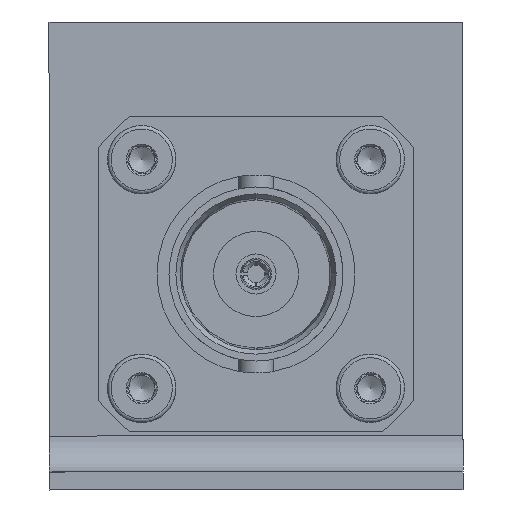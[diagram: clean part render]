
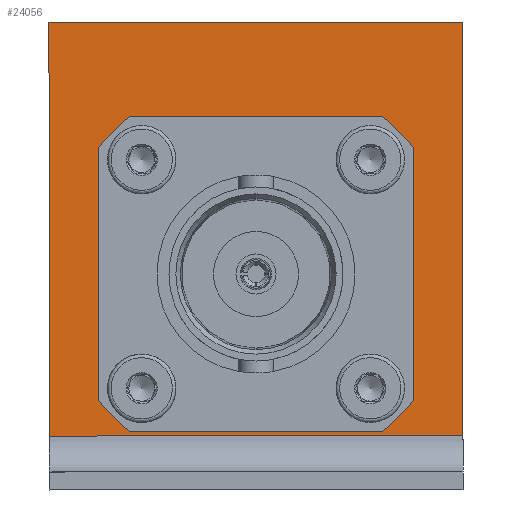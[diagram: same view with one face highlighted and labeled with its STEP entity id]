
A CAD part, left-side view. The second image highlights one B-rep face of the part: STEP entity #24056.
In plain terms, the highlighted planar face has unit normal (-1, 0, 0).
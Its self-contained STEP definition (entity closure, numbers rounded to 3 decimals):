
#1353=LINE('',#33131,#2765);
#1378=LINE('',#33198,#2790);
#1385=LINE('',#33215,#2797);
#1386=LINE('',#33219,#2798);
#1387=LINE('',#33223,#2799);
#1388=LINE('',#33227,#2800);
#1389=LINE('',#33228,#2801);
#1390=LINE('',#33229,#2802);
#2765=VECTOR('',#28057,1000.);
#2790=VECTOR('',#28102,1000.);
#2797=VECTOR('',#28113,1000.);
#2798=VECTOR('',#28116,1000.);
#2799=VECTOR('',#28119,1000.);
#2800=VECTOR('',#28122,1000.);
#2801=VECTOR('',#28123,1000.);
#2802=VECTOR('',#28124,1000.);
#3640=PLANE('',#25188);
#5739=ORIENTED_EDGE('',*,*,#9415,.T.);
#5740=ORIENTED_EDGE('',*,*,#9416,.F.);
#5741=ORIENTED_EDGE('',*,*,#9417,.T.);
#5742=ORIENTED_EDGE('',*,*,#9418,.F.);
#5743=ORIENTED_EDGE('',*,*,#9419,.T.);
#5744=ORIENTED_EDGE('',*,*,#9420,.F.);
#5745=ORIENTED_EDGE('',*,*,#9421,.T.);
#5746=ORIENTED_EDGE('',*,*,#9422,.F.);
#5747=ORIENTED_EDGE('',*,*,#9408,.T.);
#5748=ORIENTED_EDGE('',*,*,#9423,.T.);
#5749=ORIENTED_EDGE('',*,*,#9375,.F.);
#5750=ORIENTED_EDGE('',*,*,#9424,.T.);
#9375=EDGE_CURVE('',#11359,#11360,#1353,.T.);
#9408=EDGE_CURVE('',#11391,#11390,#1378,.T.);
#9415=EDGE_CURVE('',#11397,#11398,#12461,.T.);
#9416=EDGE_CURVE('',#11399,#11398,#1385,.T.);
#9417=EDGE_CURVE('',#11399,#11400,#12462,.T.);
#9418=EDGE_CURVE('',#11401,#11400,#1386,.T.);
#9419=EDGE_CURVE('',#11401,#11402,#12463,.T.);
#9420=EDGE_CURVE('',#11403,#11402,#1387,.T.);
#9421=EDGE_CURVE('',#11403,#11404,#12464,.T.);
#9422=EDGE_CURVE('',#11397,#11404,#1388,.T.);
#9423=EDGE_CURVE('',#11390,#11360,#1389,.T.);
#9424=EDGE_CURVE('',#11359,#11391,#1390,.T.);
#11359=VERTEX_POINT('',#33132);
#11360=VERTEX_POINT('',#33133);
#11390=VERTEX_POINT('',#33197);
#11391=VERTEX_POINT('',#33199);
#11397=VERTEX_POINT('',#33213);
#11398=VERTEX_POINT('',#33214);
#11399=VERTEX_POINT('',#33216);
#11400=VERTEX_POINT('',#33218);
#11401=VERTEX_POINT('',#33220);
#11402=VERTEX_POINT('',#33222);
#11403=VERTEX_POINT('',#33224);
#11404=VERTEX_POINT('',#33226);
#12461=CIRCLE('',#25189,11.225);
#12462=CIRCLE('',#25190,11.225);
#12463=CIRCLE('',#25191,11.225);
#12464=CIRCLE('',#25192,11.225);
#13401=EDGE_LOOP('',(#5739,#5740,#5741,#5742,#5743,#5744,#5745,#5746));
#13402=EDGE_LOOP('',(#5747,#5748,#5749,#5750));
#14889=FACE_BOUND('',#13401,.T.);
#14890=FACE_BOUND('',#13402,.T.);
#24056=ADVANCED_FACE('',(#14889,#14890),#3640,.T.);
#25188=AXIS2_PLACEMENT_3D('',#33211,#28109,#28110);
#25189=AXIS2_PLACEMENT_3D('',#33212,#28111,#28112);
#25190=AXIS2_PLACEMENT_3D('',#33217,#28114,#28115);
#25191=AXIS2_PLACEMENT_3D('',#33221,#28117,#28118);
#25192=AXIS2_PLACEMENT_3D('',#33225,#28120,#28121);
#28057=DIRECTION('',(0.,0.,-1.));
#28102=DIRECTION('',(0.,0.,-1.));
#28109=DIRECTION('',(-1.,0.,0.));
#28110=DIRECTION('',(0.,0.,1.));
#28111=DIRECTION('',(1.,0.,0.));
#28112=DIRECTION('',(0.,0.,-1.));
#28113=DIRECTION('',(0.,1.,0.));
#28114=DIRECTION('',(1.,0.,0.));
#28115=DIRECTION('',(0.,0.,-1.));
#28116=DIRECTION('',(0.,0.,1.));
#28117=DIRECTION('',(1.,0.,0.));
#28118=DIRECTION('',(0.,0.,-1.));
#28119=DIRECTION('',(0.,-1.,0.));
#28120=DIRECTION('',(1.,0.,0.));
#28121=DIRECTION('',(0.,0.,-1.));
#28122=DIRECTION('',(0.,0.,-1.));
#28123=DIRECTION('',(0.,-1.,0.));
#28124=DIRECTION('',(0.,1.,0.));
#33131=CARTESIAN_POINT('',(-52.35,-11.5,30.551));
#33132=CARTESIAN_POINT('',(-52.35,-11.5,30.551));
#33133=CARTESIAN_POINT('',(-52.35,-11.5,7.551));
#33197=CARTESIAN_POINT('',(-52.35,11.5,7.551));
#33198=CARTESIAN_POINT('',(-52.35,11.5,30.551));
#33199=CARTESIAN_POINT('',(-52.35,11.5,30.551));
#33211=CARTESIAN_POINT('',(-52.35,-11.5,30.551));
#33212=CARTESIAN_POINT('',(-52.35,0.,16.551));
#33213=CARTESIAN_POINT('',(-52.35,8.75,23.582));
#33214=CARTESIAN_POINT('',(-52.35,7.031,25.301));
#33215=CARTESIAN_POINT('',(-52.35,-8.75,25.301));
#33216=CARTESIAN_POINT('',(-52.35,-7.031,25.301));
#33217=CARTESIAN_POINT('',(-52.35,0.,16.551));
#33218=CARTESIAN_POINT('',(-52.35,-8.75,23.582));
#33219=CARTESIAN_POINT('',(-52.35,-8.75,9.52));
#33220=CARTESIAN_POINT('',(-52.35,-8.75,9.52));
#33221=CARTESIAN_POINT('',(-52.35,0.,16.551));
#33222=CARTESIAN_POINT('',(-52.35,-7.031,7.801));
#33223=CARTESIAN_POINT('',(-52.35,-8.75,7.801));
#33224=CARTESIAN_POINT('',(-52.35,7.031,7.801));
#33225=CARTESIAN_POINT('',(-52.35,0.,16.551));
#33226=CARTESIAN_POINT('',(-52.35,8.75,9.52));
#33227=CARTESIAN_POINT('',(-52.35,8.75,9.52));
#33228=CARTESIAN_POINT('',(-52.35,-11.5,7.551));
#33229=CARTESIAN_POINT('',(-52.35,-11.5,30.551));
